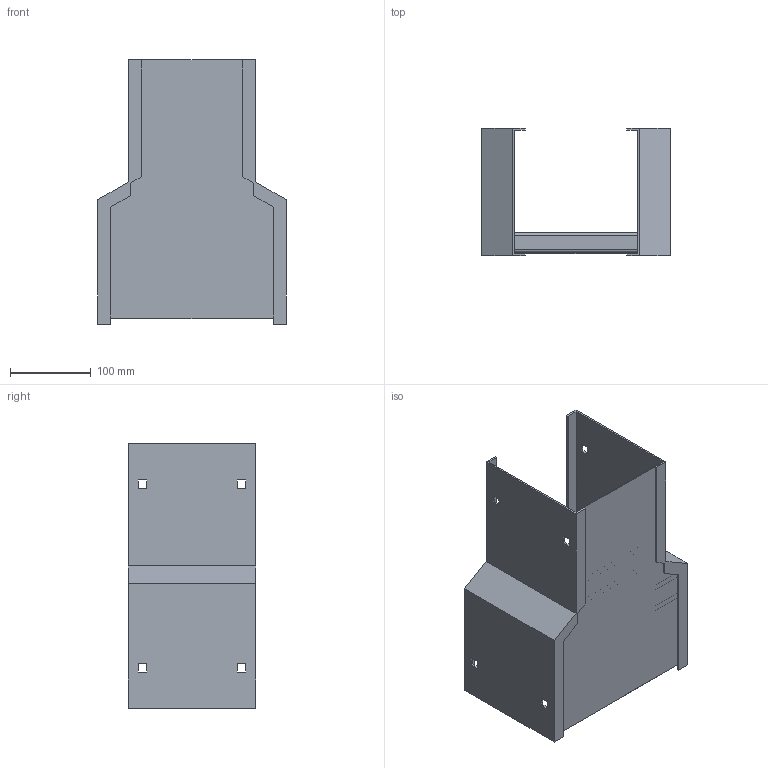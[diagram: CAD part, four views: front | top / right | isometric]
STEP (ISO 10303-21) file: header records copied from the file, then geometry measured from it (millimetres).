
FILE_DESCRIPTION((''),'2;1');
FILE_NAME('AUF60906SHSR_ASM','2010-01-27T',('erouzier'),(''),'PRO/ENGINEER BY PARAMETRIC TECHNOLOGY CORPORATION, 2008510','PRO/ENGINEER BY PARAMETRIC TECHNOLOGY CORPORATION, 2008510','');
FILE_SCHEMA(('CONFIG_CONTROL_DESIGN'));
Length unit declared in the file: inch
Products named in the file (5): CDS013866-6-15; CDS002159L9; CDS002159L6_AF3; CDS014362-9-6; AUF60906SHSR_ASM
Assembly tree (5 placements, depth 2):
  AUF60906SHSR_ASM
    CDS013866-6-15  x2
    CDS002159L9
    CDS002159L6_AF3
    CDS014362-9-6
Bounding box: 233.43 x 157.23 x 326.8 mm (x, y, z)
Volume: 419877.9 mm3; surface area: 470791.5 mm2
Topology: 5 solids, 5 shells, 150 faces, 408 edges, 268 vertices
Faces by surface type: plane 128, cylinder 22
Entity records: 3603 total; most frequent: CARTESIAN_POINT 618, ORIENTED_EDGE 600, DIRECTION 584, EDGE_CURVE 300, VECTOR 256, LINE 256, VERTEX_POINT 198, AXIS2_PLACEMENT_3D 164
